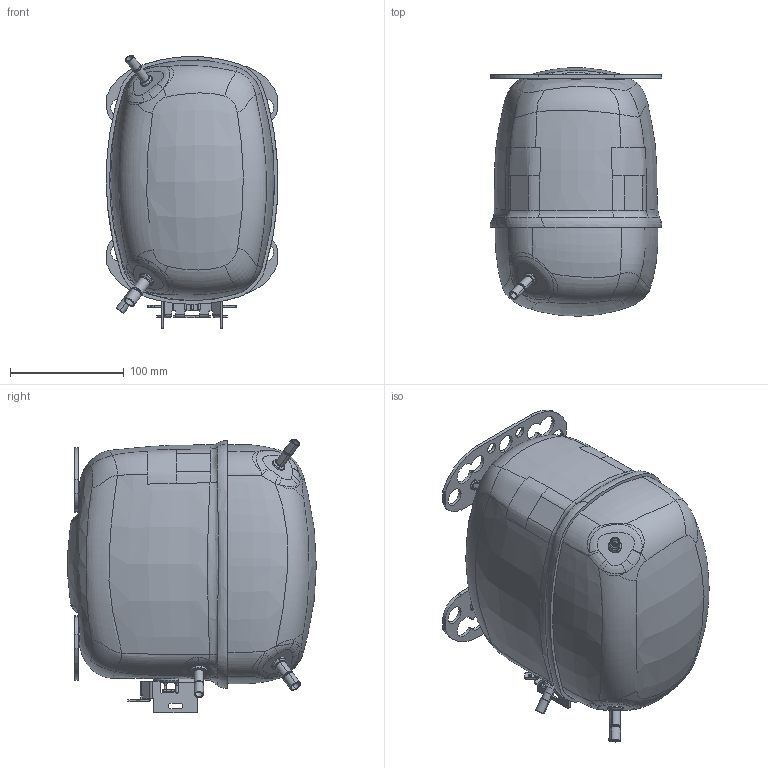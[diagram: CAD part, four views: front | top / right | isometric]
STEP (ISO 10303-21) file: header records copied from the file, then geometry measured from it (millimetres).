
FILE_DESCRIPTION((''),'2;1');
FILE_NAME('SC12CLX2_104L2697_ASM','2019-01-10T',('CN6198'),(''),'CREO PARAMETRIC BY PTC INC, 2015380','CREO PARAMETRIC BY PTC INC, 2015380','');
FILE_SCHEMA(('CONFIG_CONTROL_DESIGN'));
Products named in the file (21): 104B1404_DES; 104B0674; 104B0635; 104B0676_BENT; 104B0688_BENT_ASM; 104B0321; 104B0378; 104B0407_AF1; 104B0053_ASM; 117-3617_BODY; 117-3617_PINS; 117-3617_GLASS_FUSED; 117-3617_ASM; 103N0510; 104B0504_AF65; 104B1114_ASM; 104B0601; 104B0683; 104B0681; 104B0076_ASM; SC12CLX2_104L2697_ASM
Assembly tree (25 placements, depth 4):
  SC12CLX2_104L2697_ASM
    104B1114_ASM
      104B1404_DES
      104B0688_BENT_ASM
        104B0674
        104B0635
        104B0676_BENT
      104B0321  x2
      104B0053_ASM
        104B0378
        104B0407_AF1
      117-3617_ASM
        117-3617_BODY
        117-3617_PINS  x3
        117-3617_GLASS_FUSED  x3
      103N0510
      104B0504_AF65
    104B0076_ASM
      104B0601
      104B0683
      104B0681
Bounding box: 150.87 x 218.42 x 240.78 mm (x, y, z)
Volume: 499746.1 mm3; surface area: 355575.1 mm2
Topology: 20 solids, 20 shells, 1216 faces, 3038 edges, 1857 vertices
Faces by surface type: bspline 422, cylinder 268, plane 253, cone 110, torus 104, sphere 34, extrusion 13, revolution 12
Entity records: 115206 total; most frequent: CARTESIAN_POINT 92084, ORIENTED_EDGE 5314, DIRECTION 3814, EDGE_CURVE 2657, VERTEX_POINT 1642, AXIS2_PLACEMENT_3D 1504, EDGE_LOOP 1131, B_SPLINE_CURVE_WITH_KNOTS 1098
